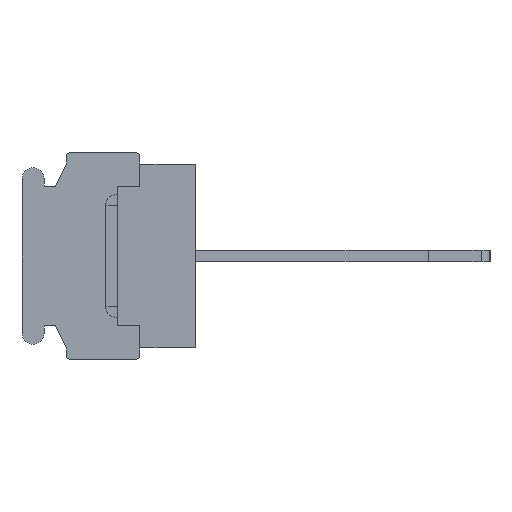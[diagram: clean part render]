
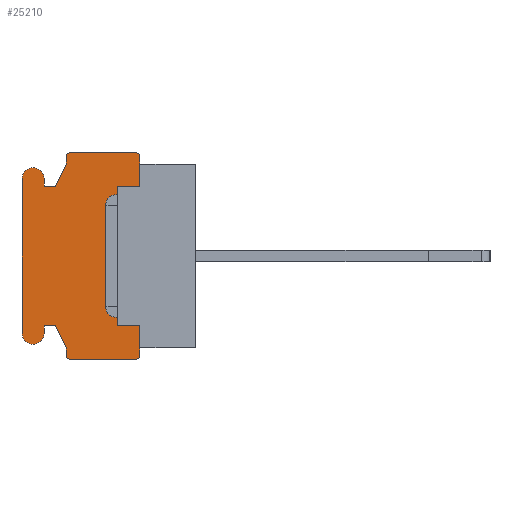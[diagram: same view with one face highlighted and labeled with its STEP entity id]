
A CAD part, left-side view. The second image highlights one B-rep face of the part: STEP entity #25210.
In plain terms, the highlighted planar face has unit normal (-1, 0, 0).
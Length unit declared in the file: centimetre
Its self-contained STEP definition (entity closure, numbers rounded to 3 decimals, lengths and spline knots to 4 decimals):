
#1472=PLANE('',#41011);
#2221=VECTOR('',#26568,1.);
#3900=VECTOR('',#30103,1.);
#3901=VECTOR('',#30104,1.);
#3902=VECTOR('',#30107,1.);
#3903=VECTOR('',#30110,1.);
#3904=VECTOR('',#30111,1.);
#3905=VECTOR('',#30112,1.);
#3906=VECTOR('',#30113,1.);
#3907=VECTOR('',#30116,1.);
#3908=VECTOR('',#30119,1.);
#3909=VECTOR('',#30120,1.);
#3910=VECTOR('',#30121,1.);
#3911=VECTOR('',#30122,1.);
#3912=VECTOR('',#30125,1.);
#3913=VECTOR('',#30128,1.);
#3914=VECTOR('',#30129,1.);
#3915=VECTOR('',#30130,1.);
#3916=VECTOR('',#30131,1.);
#4945=LINE('',#32867,#2221);
#6624=LINE('',#37861,#3900);
#6625=LINE('',#37863,#3901);
#6626=LINE('',#37867,#3902);
#6627=LINE('',#37871,#3903);
#6628=LINE('',#37873,#3904);
#6629=LINE('',#37875,#3905);
#6630=LINE('',#37877,#3906);
#6631=LINE('',#37881,#3907);
#6632=LINE('',#37885,#3908);
#6633=LINE('',#37887,#3909);
#6634=LINE('',#37889,#3910);
#6635=LINE('',#37891,#3911);
#6636=LINE('',#37895,#3912);
#6637=LINE('',#37899,#3913);
#6638=LINE('',#37900,#3914);
#6639=LINE('',#37902,#3915);
#6640=LINE('',#37903,#3916);
#7608=VERTEX_POINT('',#32868);
#7609=VERTEX_POINT('',#32869);
#7714=VERTEX_POINT('',#33161);
#7761=VERTEX_POINT('',#33260);
#9146=VERTEX_POINT('',#37862);
#9147=VERTEX_POINT('',#37864);
#9148=VERTEX_POINT('',#37866);
#9149=VERTEX_POINT('',#37868);
#9150=VERTEX_POINT('',#37870);
#9151=VERTEX_POINT('',#37872);
#9152=VERTEX_POINT('',#37874);
#9153=VERTEX_POINT('',#37876);
#9154=VERTEX_POINT('',#37878);
#9155=VERTEX_POINT('',#37880);
#9156=VERTEX_POINT('',#37882);
#9157=VERTEX_POINT('',#37884);
#9158=VERTEX_POINT('',#37886);
#9159=VERTEX_POINT('',#37888);
#9160=VERTEX_POINT('',#37890);
#9161=VERTEX_POINT('',#37892);
#9162=VERTEX_POINT('',#37894);
#9163=VERTEX_POINT('',#37896);
#9164=VERTEX_POINT('',#37898);
#9165=VERTEX_POINT('',#37901);
#9982=CIRCLE('',#41012,0.02);
#9983=CIRCLE('',#41013,0.02);
#9984=CIRCLE('',#41014,0.075);
#9985=CIRCLE('',#41015,0.075);
#9986=CIRCLE('',#41016,0.02);
#9987=CIRCLE('',#41017,0.02);
#10790=EDGE_CURVE('',#7608,#7609,#4945,.T.);
#13129=EDGE_CURVE('',#9146,#7714,#6624,.T.);
#13130=EDGE_CURVE('',#9147,#7714,#6625,.T.);
#13131=EDGE_CURVE('',#9148,#9147,#9982,.T.);
#13132=EDGE_CURVE('',#9149,#9148,#6626,.T.);
#13133=EDGE_CURVE('',#9150,#9149,#9983,.T.);
#13134=EDGE_CURVE('',#9151,#9150,#6627,.T.);
#13135=EDGE_CURVE('',#9152,#9151,#6628,.T.);
#13136=EDGE_CURVE('',#9153,#9152,#6629,.T.);
#13137=EDGE_CURVE('',#9154,#9153,#6630,.T.);
#13138=EDGE_CURVE('',#9155,#9154,#9984,.T.);
#13139=EDGE_CURVE('',#9156,#9155,#6631,.T.);
#13140=EDGE_CURVE('',#9157,#9156,#9985,.T.);
#13141=EDGE_CURVE('',#9158,#9157,#6632,.T.);
#13142=EDGE_CURVE('',#9159,#9158,#6633,.T.);
#13143=EDGE_CURVE('',#9160,#9159,#6634,.T.);
#13144=EDGE_CURVE('',#9161,#9160,#6635,.T.);
#13145=EDGE_CURVE('',#9162,#9161,#9986,.T.);
#13146=EDGE_CURVE('',#9163,#9162,#6636,.T.);
#13147=EDGE_CURVE('',#9164,#9163,#9987,.T.);
#13148=EDGE_CURVE('',#7761,#9164,#6637,.T.);
#13149=EDGE_CURVE('',#7761,#9165,#6638,.T.);
#13150=EDGE_CURVE('',#9165,#7608,#6639,.T.);
#13151=EDGE_CURVE('',#7609,#9146,#6640,.T.);
#19931=ORIENTED_EDGE('',*,*,#13129,.T.);
#19932=ORIENTED_EDGE('',*,*,#13130,.F.);
#19933=ORIENTED_EDGE('',*,*,#13131,.F.);
#19934=ORIENTED_EDGE('',*,*,#13132,.F.);
#19935=ORIENTED_EDGE('',*,*,#13133,.F.);
#19936=ORIENTED_EDGE('',*,*,#13134,.F.);
#19937=ORIENTED_EDGE('',*,*,#13135,.F.);
#19938=ORIENTED_EDGE('',*,*,#13136,.F.);
#19939=ORIENTED_EDGE('',*,*,#13137,.F.);
#19940=ORIENTED_EDGE('',*,*,#13138,.F.);
#19941=ORIENTED_EDGE('',*,*,#13139,.F.);
#19942=ORIENTED_EDGE('',*,*,#13140,.F.);
#19943=ORIENTED_EDGE('',*,*,#13141,.F.);
#19944=ORIENTED_EDGE('',*,*,#13142,.F.);
#19945=ORIENTED_EDGE('',*,*,#13143,.F.);
#19946=ORIENTED_EDGE('',*,*,#13144,.F.);
#19947=ORIENTED_EDGE('',*,*,#13145,.F.);
#19948=ORIENTED_EDGE('',*,*,#13146,.F.);
#19949=ORIENTED_EDGE('',*,*,#13147,.F.);
#19950=ORIENTED_EDGE('',*,*,#13148,.F.);
#19951=ORIENTED_EDGE('',*,*,#13149,.T.);
#19952=ORIENTED_EDGE('',*,*,#13150,.T.);
#19953=ORIENTED_EDGE('',*,*,#10790,.T.);
#19954=ORIENTED_EDGE('',*,*,#13151,.T.);
#22338=EDGE_LOOP('',(#19931,#19932,#19933,#19934,#19935,#19936,#19937,#19938,
#19939,#19940,#19941,#19942,#19943,#19944,#19945,#19946,#19947,#19948,#19949,
#19950,#19951,#19952,#19953,#19954));
#23820=FACE_BOUND('',#22338,.T.);
#25210=ADVANCED_FACE('',(#23820),#1472,.F.);
#26568=DIRECTION('',(0.,0.,1.));
#30102=DIRECTION('',(1.,0.,0.));
#30103=DIRECTION('',(0.,0.,1.));
#30104=DIRECTION('',(0.,0.,-1.));
#30105=DIRECTION('',(1.,0.,0.));
#30106=DIRECTION('',(0.,0.,-0.02));
#30107=DIRECTION('',(0.,-1.,0.));
#30108=DIRECTION('',(1.,0.,0.));
#30109=DIRECTION('',(0.,0.,-0.02));
#30110=DIRECTION('',(0.,0.,1.));
#30111=DIRECTION('',(0.,-0.447,0.894));
#30112=DIRECTION('',(0.,-1.,0.));
#30113=DIRECTION('',(0.,0.,-1.));
#30114=DIRECTION('',(1.,0.,0.));
#30115=DIRECTION('',(0.,0.,-0.075));
#30116=DIRECTION('',(0.,0.,1.));
#30117=DIRECTION('',(1.,0.,0.));
#30118=DIRECTION('',(0.,0.,-0.075));
#30119=DIRECTION('',(0.,0.,-1.));
#30120=DIRECTION('',(0.,1.,0.));
#30121=DIRECTION('',(0.,0.447,0.894));
#30122=DIRECTION('',(0.,0.,1.));
#30123=DIRECTION('',(1.,0.,0.));
#30124=DIRECTION('',(0.,0.,-0.02));
#30125=DIRECTION('',(0.,1.,0.));
#30126=DIRECTION('',(1.,0.,0.));
#30127=DIRECTION('',(0.,0.,-0.02));
#30128=DIRECTION('',(0.,0.,-1.));
#30129=DIRECTION('',(0.,0.,1.));
#30130=DIRECTION('',(0.,1.,0.));
#30131=DIRECTION('',(0.,-1.,0.));
#32867=CARTESIAN_POINT('',(-0.762,0.53,0.));
#32868=CARTESIAN_POINT('',(-0.762,0.53,-0.475));
#32869=CARTESIAN_POINT('',(-0.762,0.53,0.475));
#33161=CARTESIAN_POINT('',(-0.762,0.38,0.625));
#33260=CARTESIAN_POINT('',(-0.762,0.38,-0.625));
#37860=CARTESIAN_POINT('',(-0.762,0.6059,0.));
#37861=CARTESIAN_POINT('',(-0.762,0.38,0.275));
#37862=CARTESIAN_POINT('',(-0.762,0.38,0.475));
#37863=CARTESIAN_POINT('',(-0.762,0.38,0.68));
#37864=CARTESIAN_POINT('',(-0.762,0.38,0.68));
#37865=CARTESIAN_POINT('',(-0.762,0.4,0.68));
#37866=CARTESIAN_POINT('',(-0.762,0.4,0.7));
#37867=CARTESIAN_POINT('',(-0.762,0.86,0.7));
#37868=CARTESIAN_POINT('',(-0.762,0.86,0.7));
#37869=CARTESIAN_POINT('',(-0.762,0.86,0.68));
#37870=CARTESIAN_POINT('',(-0.762,0.88,0.68));
#37871=CARTESIAN_POINT('',(-0.762,0.88,0.625));
#37872=CARTESIAN_POINT('',(-0.762,0.88,0.625));
#37873=CARTESIAN_POINT('',(-0.762,0.955,0.475));
#37874=CARTESIAN_POINT('',(-0.762,0.955,0.475));
#37875=CARTESIAN_POINT('',(-0.762,1.03,0.475));
#37876=CARTESIAN_POINT('',(-0.762,1.03,0.475));
#37877=CARTESIAN_POINT('',(-0.762,1.03,0.525));
#37878=CARTESIAN_POINT('',(-0.762,1.03,0.525));
#37879=CARTESIAN_POINT('',(-0.762,1.105,0.525));
#37880=CARTESIAN_POINT('',(-0.762,1.18,0.525));
#37881=CARTESIAN_POINT('',(-0.762,1.18,-0.525));
#37882=CARTESIAN_POINT('',(-0.762,1.18,-0.525));
#37883=CARTESIAN_POINT('',(-0.762,1.105,-0.525));
#37884=CARTESIAN_POINT('',(-0.762,1.03,-0.525));
#37885=CARTESIAN_POINT('',(-0.762,1.03,-0.475));
#37886=CARTESIAN_POINT('',(-0.762,1.03,-0.475));
#37887=CARTESIAN_POINT('',(-0.762,0.955,-0.475));
#37888=CARTESIAN_POINT('',(-0.762,0.955,-0.475));
#37889=CARTESIAN_POINT('',(-0.762,0.88,-0.625));
#37890=CARTESIAN_POINT('',(-0.762,0.88,-0.625));
#37891=CARTESIAN_POINT('',(-0.762,0.88,-0.68));
#37892=CARTESIAN_POINT('',(-0.762,0.88,-0.68));
#37893=CARTESIAN_POINT('',(-0.762,0.86,-0.68));
#37894=CARTESIAN_POINT('',(-0.762,0.86,-0.7));
#37895=CARTESIAN_POINT('',(-0.762,0.4,-0.7));
#37896=CARTESIAN_POINT('',(-0.762,0.4,-0.7));
#37897=CARTESIAN_POINT('',(-0.762,0.4,-0.68));
#37898=CARTESIAN_POINT('',(-0.762,0.38,-0.68));
#37899=CARTESIAN_POINT('',(-0.762,0.38,-0.625));
#37900=CARTESIAN_POINT('',(-0.762,0.38,-0.275));
#37901=CARTESIAN_POINT('',(-0.762,0.38,-0.475));
#37902=CARTESIAN_POINT('',(-0.762,0.5304,-0.475));
#37903=CARTESIAN_POINT('',(-0.762,0.5304,0.475));
#41011=AXIS2_PLACEMENT_3D('',#37860,#30102,$);
#41012=AXIS2_PLACEMENT_3D('',#37865,#30105,#30106);
#41013=AXIS2_PLACEMENT_3D('',#37869,#30108,#30109);
#41014=AXIS2_PLACEMENT_3D('',#37879,#30114,#30115);
#41015=AXIS2_PLACEMENT_3D('',#37883,#30117,#30118);
#41016=AXIS2_PLACEMENT_3D('',#37893,#30123,#30124);
#41017=AXIS2_PLACEMENT_3D('',#37897,#30126,#30127);
